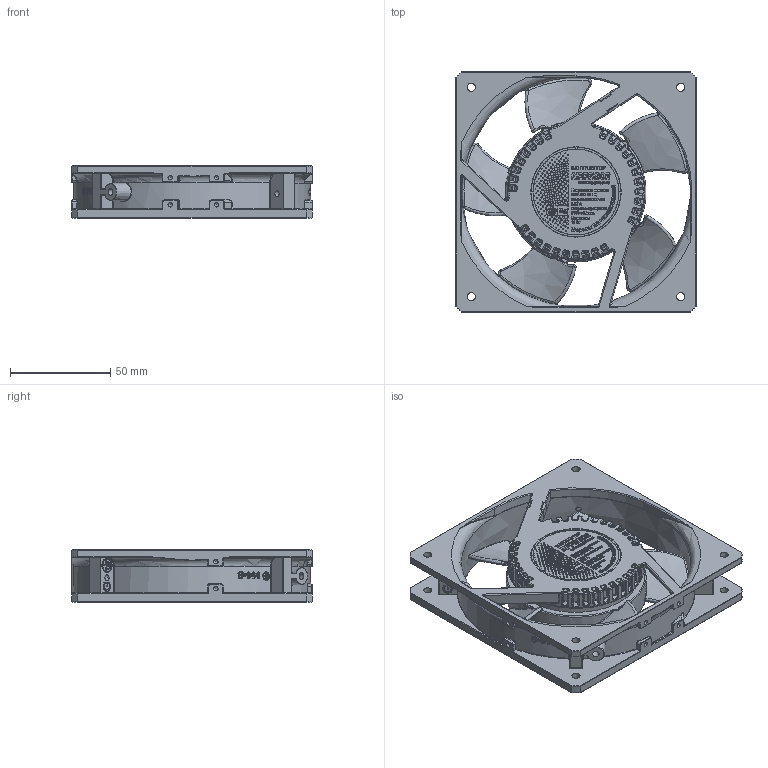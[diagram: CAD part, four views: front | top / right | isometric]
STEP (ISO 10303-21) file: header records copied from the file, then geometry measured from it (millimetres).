
FILE_DESCRIPTION(/* description */ (''),/* implementation_level */ '2;1');
FILE_NAME(/* name */ 'D:\Котлубовский\Вентиляторы\VENT-12025.220VAC.5MSHB\VENT-12025.220VAC.5MSHB.stp',/* time_stamp */ '2022-06-28T19:46:20+07:00',/* author */ ('YURY_'),/* organization */ (''),/* preprocessor_version */ 'ST-DEVELOPER v17.2',/* originating_system */ 'Autodesk Inventor 2019',/* authorisation */ '');
FILE_SCHEMA (('AUTOMOTIVE_DESIGN { 1 0 10303 214 3 1 1 }'));
Products named in the file (9): VENT-12025.220VAC.5MSHB; 1_VENT-12025.220VAC.5MSHB; 2_VENT-12025.220VAC.5MSHB; 3_VENT-12025.220VAC.5MSHB; 4_VENT-12025.220VAC.5MSHB; 5_VENT-12025.220VAC.5MSHB; 6_VENT-12025.220VAC.5MSHB; Винт 2.M3-6gx13 ГОСТ 
17475-80; 7_VENT-12025.220VAC.5MSHB
Assembly tree (9 placements, depth 2):
  VENT-12025.220VAC.5MSHB
    1_VENT-12025.220VAC.5MSHB
    2_VENT-12025.220VAC.5MSHB
    3_VENT-12025.220VAC.5MSHB
    4_VENT-12025.220VAC.5MSHB
    5_VENT-12025.220VAC.5MSHB
    6_VENT-12025.220VAC.5MSHB
    Винт 2.M3-6gx13 ГОСТ 
17475-80
    7_VENT-12025.220VAC.5MSHB  x2
Bounding box: 120.4 x 120.4 x 26 mm (x, y, z)
Volume: 112668.6 mm3; surface area: 80219.6 mm2
Topology: 9 solids, 9 shells, 6733 faces, 16324 edges, 10039 vertices
Faces by surface type: bspline 2908, plane 2091, cylinder 797, sphere 437, torus 395, cone 105
Full cylindrical faces by diameter (mm): 1 x2, 2.299 x1, 2.459 x1, 3 x2, 3.242 x1, 3.6 x1, 4 x1, 4.134 x8, 5.6 x1, 6.4 x2, 7 x2, 43 x1, 57 x1, 62 x1, 63 x1, 68 x1
Entity records: 240869 total; most frequent: CARTESIAN_POINT 101219, ORIENTED_EDGE 32410, DIRECTION 21831, EDGE_CURVE 16205, VERTEX_POINT 9993, AXIS2_PLACEMENT_3D 7508, EDGE_LOOP 7224, LINE 6815
